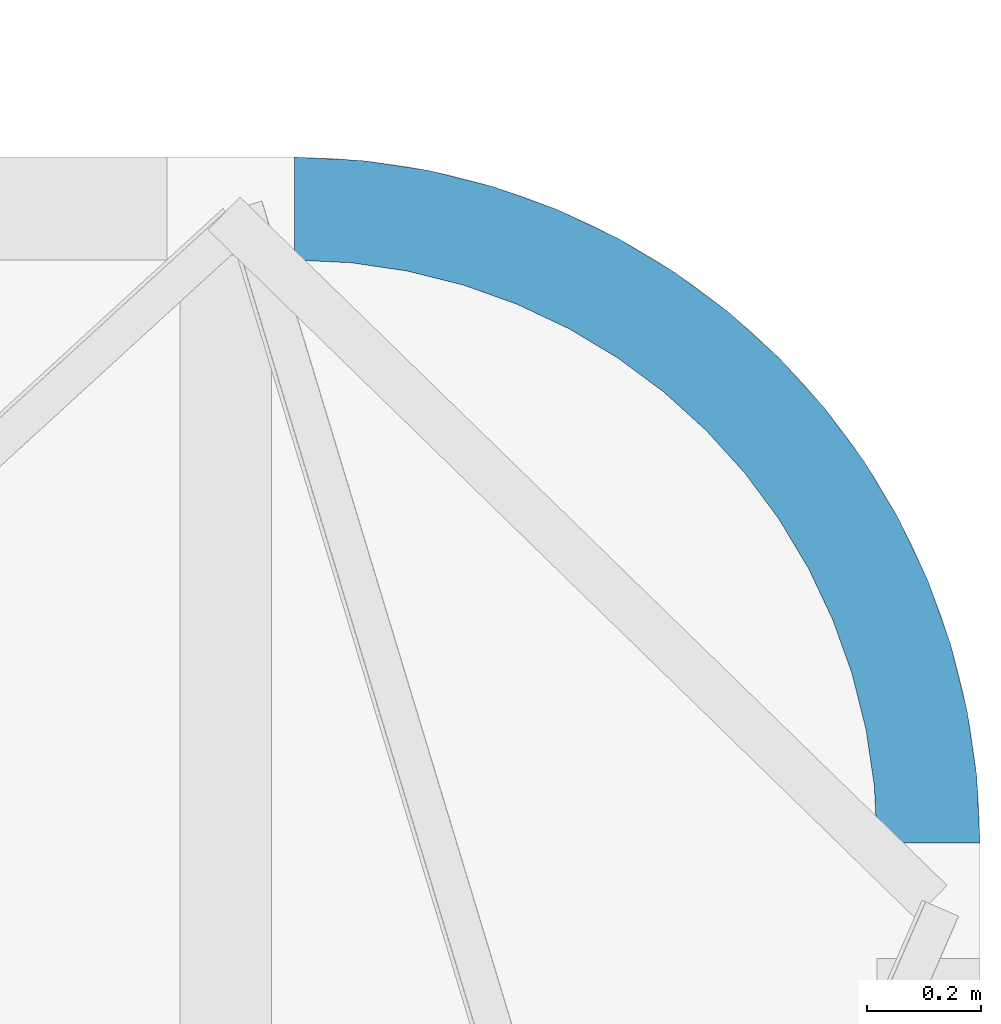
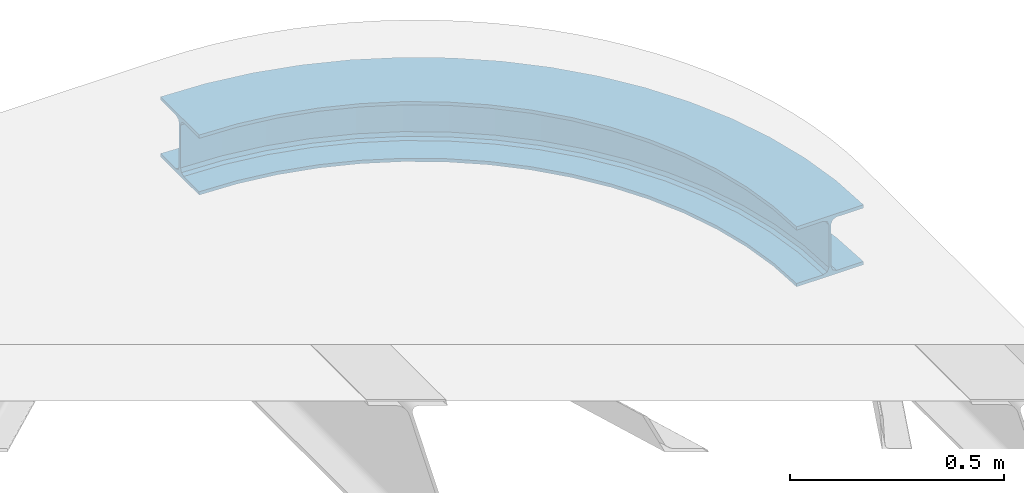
# One storey, part 14 of 14: 1 beam.
"""IFC2X3 building model written with IfcOpenShell, lengths in millimetres."""

from ifc_helpers import new_model, entity, si_unit, converted_unit, derived_unit, direction, frame, origin, place, context, subcontext, project, spatial, faceted_brep, material, type_object, element, save


model = new_model("IFC2X3")

# Units and contexts
model_context = context("Model", 3, precision=0.01, world=origin(), true_north=direction((6.123031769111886e-17, 1.0)))
body_context = subcontext(model_context, "Body", "Model", "MODEL_VIEW")
ifc_project = project(units=[si_unit("LENGTHUNIT", "METRE", prefix="MILLI"), si_unit("AREAUNIT", "SQUARE_METRE"), si_unit("VOLUMEUNIT", "CUBIC_METRE"), derived_unit("MASSDENSITYUNIT", [(si_unit("MASSUNIT", "GRAM", prefix="KILO"), 1), (si_unit("LENGTHUNIT", "METRE"), -3)]), si_unit("MASSUNIT", "GRAM", prefix="KILO"), converted_unit("PLANEANGLEUNIT", "DEGREE", entity("IfcPlaneAngleMeasure", 0.017453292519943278), si_unit("PLANEANGLEUNIT", "RADIAN"), dimensions=[0, 0, 0, 0, 0, 0, 0])], contexts=[model_context])

# Site, building, storey
site_placement = place(None, origin())
site = spatial("IfcSite", under=ifc_project, at=site_placement, Name="Default", CompositionType="ELEMENT")
building_placement = place(site_placement, origin())
building = spatial("IfcBuilding", under=site, at=building_placement, Name="AT constructie", CompositionType="ELEMENT")
storey_placement = place(building_placement, frame((0.0, 0.0, 12043.0)))
storey = spatial("IfcBuildingStorey", under=building, at=storey_placement, Name="03 derde verdieping", CompositionType="ELEMENT", Elevation=12043.0)

# Beam
ifc_material = material(Name="h2_staal_S355")
beam_type = type_object("IfcBeamType", Name="balk HE_gen_HEA180", PredefinedType="NOTDEFINED")
beam_placement = place(storey_placement, frame((99466.87463111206, 30191.04350852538, 0.0), z_axis=(0.0, 0.0, -1.0), x_axis=(1.0, 0.0, 0.0)))
element("IfcBeam", 1, at=beam_placement, inside=storey, type_object=beam_type, material=ifc_material, Name="NLRS_28_SF_LIB_balk HEA_gen_AT:balk HE_gen_HEA180", ObjectType="NLRS_28_SF_LIB_balk HEA_gen_AT:balk HE_gen_HEA180", context=body_context, shape_type="Brep", body=[
    faceted_brep([(1194.2216720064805, -117.62056839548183, 0.0), (1015.0884212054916, -99.97748313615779, 0.0), (1020.0, 0.0, 0.0), (1200.0, 0.0, 0.0), (1015.0884212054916, -99.97748313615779, 9.500000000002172), (1020.0, 0.0, 9.500000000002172), (1086.7417215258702, -107.0347172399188, 9.500000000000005), (1092.0, 0.0, 9.500000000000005), (1097.2972495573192, -108.07434600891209, 13.893398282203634), (1102.6066017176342, 0.0, 13.893398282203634), (1101.6694924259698, -108.50497434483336, 24.500000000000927), (1107.0, 0.0, 24.500000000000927), (1101.6694924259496, -108.50497434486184, 146.50000000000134), (1107.0, 0.0, 146.50000000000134), (1097.2972495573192, -108.07434600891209, 157.10660171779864), (1102.6066017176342, 0.0, 157.10660171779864), (1086.7417215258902, -107.03471723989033, 161.50000000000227), (1092.0, 0.0, 161.50000000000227), (1015.0884212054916, -99.97748313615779, 161.50000000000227), (1020.0, 0.0, 161.50000000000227), (1015.0884212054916, -99.97748313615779, 171.0), (1020.0, 0.0, 171.0), (1194.2216720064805, -117.62056839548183, 171.0), (1200.0, 0.0, 171.0), (1194.2216720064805, -117.62056839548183, 161.50000000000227), (1200.0, 0.0, 161.50000000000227), (1122.568371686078, -110.56333429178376, 161.50000000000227), (1128.0, 0.0, 161.50000000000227), (1112.0128436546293, -109.52370552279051, 157.10660171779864), (1117.3933982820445, 0.0, 157.10660171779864), (1107.6406007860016, -109.09307718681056, 146.50000000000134), (1113.0, 0.0, 146.50000000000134), (1107.6406007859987, -109.09307718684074, 24.500000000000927), (1113.0, 0.0, 24.500000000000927), (1112.0128436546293, -109.52370552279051, 13.893398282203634), (1117.3933982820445, 0.0, 13.893398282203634), (1122.5683716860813, -110.56333429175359, 9.500000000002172), (1128.0, 0.0, 9.500000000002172), (1194.2216720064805, -117.62056839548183, 9.500000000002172), (1200.0, 0.0, 9.500000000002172), (1176.9423364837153, -234.1083864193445, 0.0), (1000.4009860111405, -198.99212845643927, 0.0), (1000.4009860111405, -198.99212845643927, 9.500000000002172), (1071.0175262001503, -213.03863164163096, 9.500000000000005), (1081.4203250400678, -215.10787698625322, 13.893398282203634), (1085.7293054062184, -215.96498647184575, 24.500000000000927), (1085.7293054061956, -215.96498647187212, 146.50000000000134), (1081.4203250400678, -215.10787698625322, 157.10660171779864), (1071.017526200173, -213.03863164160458, 161.50000000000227), (1000.4009860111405, -198.99212845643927, 161.50000000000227), (1000.4009860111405, -198.99212845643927, 171.0), (1176.9423364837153, -234.1083864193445, 171.0), (1176.9423364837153, -234.1083864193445, 161.50000000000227), (1106.3257962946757, -220.06188323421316, 161.50000000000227), (1095.9229974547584, -217.99263788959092, 157.10660171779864), (1091.6140170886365, -217.13552840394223, 146.50000000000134), (1091.6140170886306, -217.13552840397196, 24.500000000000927), (1095.9229974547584, -217.99263788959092, 13.893398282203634), (1106.3257962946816, -220.06188323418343, 9.500000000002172), (1176.9423364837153, -234.1083864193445, 9.500000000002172), (1148.3284028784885, -348.3416127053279, 0.0), (976.0791424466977, -296.09037079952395, 0.0), (976.0791424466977, -296.09037079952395, 9.500000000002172), (1044.978846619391, -316.990867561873, 9.500000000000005), (1055.1287316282, -320.06980151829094, 13.893398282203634), (1059.3329516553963, -321.34513772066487, 24.500000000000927), (1059.332951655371, -321.34513772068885, 146.50000000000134), (1055.1287316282, -320.06980151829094, 157.10660171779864), (1044.9788466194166, -316.990867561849, 161.50000000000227), (976.0791424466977, -296.09037079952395, 161.50000000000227), (976.0791424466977, -296.09037079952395, 171.0), (1148.3284028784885, -348.3416127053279, 171.0), (1148.3284028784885, -348.3416127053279, 161.50000000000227), (1079.4286987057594, -327.441115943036, 161.50000000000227), (1069.278813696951, -324.3621819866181, 157.10660171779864), (1065.0745936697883, -323.08684578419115, 146.50000000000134), (1065.0745936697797, -323.08684578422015, 24.500000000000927), (1069.278813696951, -324.3621819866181, 13.893398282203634), (1079.4286987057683, -327.441115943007, 9.500000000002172), (1148.3284028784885, -348.3416127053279, 9.500000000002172), (1108.6554390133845, -459.22011883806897, 0.0), (942.3571231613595, -390.3371010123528, 0.0), (942.3571231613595, -390.3371010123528, 9.500000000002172), (1008.8764495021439, -417.8903081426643, 9.500000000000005), (1018.675671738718, -421.94927889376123, 13.893398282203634), (1022.7346424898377, -423.63055962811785, 24.500000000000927), (1022.7346424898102, -423.6305596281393, 146.50000000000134), (1018.675671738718, -421.94927889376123, 157.10660171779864), (1008.8764495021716, -417.89030814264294, 161.50000000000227), (942.3571231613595, -390.3371010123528, 161.50000000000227), (942.3571231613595, -390.3371010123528, 171.0), (1108.6554390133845, -459.22011883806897, 171.0), (1108.6554390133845, -459.22011883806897, 161.50000000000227), (1042.1361126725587, -431.66691170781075, 161.50000000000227), (1032.336890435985, -427.6079409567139, 157.10660171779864), (1028.2779196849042, -425.9266602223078, 146.50000000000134), (1028.2779196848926, -425.92666022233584, 24.500000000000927), (1032.336890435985, -427.6079409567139, 13.893398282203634), (1042.1361126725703, -431.66691170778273, 9.500000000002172), (1108.6554390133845, -459.22011883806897, 9.500000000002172), (1058.305517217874, -565.676084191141, 0.0), (899.5596896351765, -480.8246715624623, 0.0), (899.5596896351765, -480.8246715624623, 9.500000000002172), (963.0580206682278, -514.7652366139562, 9.500000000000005), (972.412208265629, -519.7651540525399, 13.893398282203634), (976.2868396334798, -521.8361876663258, 24.500000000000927), (976.2868396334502, -521.8361876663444, 146.50000000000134), (972.412208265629, -519.7651540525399, 157.10660171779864), (963.0580206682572, -514.7652366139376, 161.50000000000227), (899.5596896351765, -480.8246715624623, 161.50000000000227), (899.5596896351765, -480.8246715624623, 171.0), (1058.305517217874, -565.676084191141, 171.0), (1058.305517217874, -565.676084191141, 161.50000000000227), (994.8071861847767, -531.7355191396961, 161.50000000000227), (985.4529985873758, -526.7356017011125, 157.10660171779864), (981.5783672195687, -524.664568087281, 146.50000000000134), (981.5783672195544, -524.6645680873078, 24.500000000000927), (985.4529985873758, -526.7356017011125, 13.893398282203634), (994.807186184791, -531.7355191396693, 9.500000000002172), (1058.305517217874, -565.676084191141, 9.500000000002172), (997.7635347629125, -666.6842796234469, 0.0), (848.0990045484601, -566.6816376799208, 0.0), (848.0990045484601, -566.6816376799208, 9.500000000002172), (907.9648166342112, -606.6826944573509, 9.500000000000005), (916.7838836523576, -612.5754066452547, 13.893398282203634), (920.436860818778, -615.0162479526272, 24.500000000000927), (920.4368608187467, -615.0162479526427, 146.50000000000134), (916.7838836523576, -612.5754066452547, 157.10660171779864), (907.9648166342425, -606.6826944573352, 161.50000000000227), (848.0990045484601, -566.6816376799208, 161.50000000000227), (848.0990045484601, -566.6816376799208, 171.0), (997.7635347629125, -666.6842796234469, 171.0), (997.7635347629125, -666.6842796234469, 161.50000000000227), (937.8977226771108, -626.6832228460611, 161.50000000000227), (929.0786556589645, -620.7905106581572, 157.10660171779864), (925.4256784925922, -618.3496693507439, 146.50000000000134), (925.4256784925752, -618.3496693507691, 24.500000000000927), (929.0786556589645, -620.7905106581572, 13.893398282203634), (937.8977226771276, -626.6832228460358, 9.500000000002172), (997.7635347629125, -666.6842796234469, 9.500000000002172), (927.6125440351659, -761.2719409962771, 0.0), (788.470662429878, -647.0811498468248, 0.0), (788.470662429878, -647.0811498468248, 9.500000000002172), (844.1274150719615, -692.7574663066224, 9.500000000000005), (852.3264290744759, -699.4862232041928, 13.893398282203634), (855.7225718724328, -702.2733655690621, 24.500000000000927), (855.7225718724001, -702.2733655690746, 146.50000000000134), (852.3264290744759, -699.4862232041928, 157.10660171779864), (844.127415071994, -692.7574663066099, 161.50000000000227), (788.470662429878, -647.0811498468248, 161.50000000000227), (788.470662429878, -647.0811498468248, 171.0), (927.6125440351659, -761.2719409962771, 171.0), (927.6125440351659, -761.2719409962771, 161.50000000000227), (871.9557913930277, -715.5956245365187, 161.50000000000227), (863.7567773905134, -708.8668676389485, 157.10660171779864), (860.3606345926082, -706.079725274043, 146.50000000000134), (860.360634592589, -706.0797252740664, 24.500000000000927), (863.7567773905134, -708.8668676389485, 13.893398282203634), (871.9557913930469, -715.5956245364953, 9.500000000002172), (927.6125440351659, -761.2719409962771, 9.500000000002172), (848.5281374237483, -848.5281374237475, 0.0), (721.2489168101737, -721.2489168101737, 0.0), (721.2489168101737, -721.2489168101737, 9.500000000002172), (772.1606050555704, -772.1606050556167, 9.500000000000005), (779.6606050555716, -779.6606050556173, 13.893398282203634), (782.7672067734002, -782.7672067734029, 24.500000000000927), (782.7672067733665, -782.7672067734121, 146.50000000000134), (779.6606050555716, -779.6606050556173, 157.10660171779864), (772.160605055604, -772.1606050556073, 161.50000000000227), (721.2489168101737, -721.2489168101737, 161.50000000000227), (721.2489168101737, -721.2489168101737, 171.0), (848.5281374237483, -848.5281374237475, 171.0), (848.5281374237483, -848.5281374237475, 161.50000000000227), (797.6164491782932, -797.616449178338, 161.50000000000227), (790.1164491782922, -790.1164491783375, 157.10660171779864), (787.0098474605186, -787.0098474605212, 146.50000000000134), (787.0098474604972, -787.0098474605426, 24.500000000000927), (790.1164491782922, -790.1164491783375, 13.893398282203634), (797.6164491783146, -797.6164491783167, 9.500000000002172), (848.5281374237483, -848.5281374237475, 9.500000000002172), (761.2719409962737, -927.6125440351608, 0.0), (647.081149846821, -788.4706624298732, 0.0), (647.081149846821, -788.4706624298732, 9.500000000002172), (692.7574663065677, -844.1274150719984, 9.500000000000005), (699.4862232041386, -852.3264290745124, 13.893398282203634), (702.2733655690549, -855.7225718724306, 24.500000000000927), (702.2733655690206, -855.7225718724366, 146.50000000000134), (699.4862232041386, -852.3264290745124, 157.10660171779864), (692.7574663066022, -844.1274150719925, 161.50000000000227), (647.081149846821, -788.4706624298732, 161.50000000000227), (647.081149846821, -788.4706624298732, 171.0), (761.2719409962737, -927.6125440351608, 171.0), (761.2719409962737, -927.6125440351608, 161.50000000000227), (715.5956245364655, -871.9557913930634, 161.50000000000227), (708.8668676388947, -863.7567773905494, 157.10660171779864), (706.0797252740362, -860.360634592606, 146.50000000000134), (706.0797252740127, -860.3606345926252, 24.500000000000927), (708.8668676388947, -863.7567773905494, 13.893398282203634), (715.5956245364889, -871.9557913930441, 9.500000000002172), (761.2719409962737, -927.6125440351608, 9.500000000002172), (666.6842796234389, -997.7635347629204, 0.0), (566.681637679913, -848.0990045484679, 0.0), (566.681637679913, -848.0990045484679, 9.500000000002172), (606.6826944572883, -907.9648166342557, 9.500000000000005), (612.5754066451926, -916.7838836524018, 13.893398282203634), (615.0162479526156, -920.4368608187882, 24.500000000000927), (615.0162479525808, -920.4368608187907, 146.50000000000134), (612.5754066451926, -916.7838836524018, 157.10660171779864), (606.6826944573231, -907.9648166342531, 161.50000000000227), (566.681637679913, -848.0990045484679, 161.50000000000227), (566.681637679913, -848.0990045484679, 171.0), (666.6842796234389, -997.7635347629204, 171.0), (666.6842796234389, -997.7635347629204, 161.50000000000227), (626.6832228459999, -937.8977226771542, 161.50000000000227), (620.7905106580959, -929.0786556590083, 157.10660171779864), (618.3496693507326, -925.4256784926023, 146.50000000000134), (618.3496693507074, -925.4256784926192, 24.500000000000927), (620.7905106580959, -929.0786556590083, 13.893398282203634), (626.6832228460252, -937.8977226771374, 9.500000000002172), (666.6842796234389, -997.7635347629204, 9.500000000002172), (565.6760841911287, -1058.3055172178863, 0.0), (480.82467156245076, -899.5596896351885, 0.0), (480.82467156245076, -899.5596896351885, 9.500000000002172), (514.7652366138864, -963.0580206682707, 9.500000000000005), (519.7651540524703, -972.4122082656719, 13.893398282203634), (521.83618766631, -976.2868396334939, 24.500000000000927), (521.8361876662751, -976.286839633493, 146.50000000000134), (519.7651540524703, -972.4122082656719, 157.10660171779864), (514.7652366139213, -963.0580206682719, 161.50000000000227), (480.82467156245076, -899.5596896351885, 161.50000000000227), (480.82467156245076, -899.5596896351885, 171.0), (565.6760841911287, -1058.3055172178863, 171.0), (565.6760841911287, -1058.3055172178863, 161.50000000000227), (531.7355191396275, -994.8071861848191, 161.50000000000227), (526.7356017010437, -985.4529985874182, 157.10660171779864), (524.6645680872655, -981.5783672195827, 146.50000000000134), (524.6645680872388, -981.578367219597, 24.500000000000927), (526.7356017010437, -985.4529985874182, 13.893398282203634), (531.7355191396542, -994.8071861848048, 9.500000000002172), (565.6760841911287, -1058.3055172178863, 9.500000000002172), (459.2201188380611, -1108.6554390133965, 0.0), (390.33710101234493, -942.3571231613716, 0.0), (390.33710101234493, -942.3571231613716, 9.500000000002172), (417.8903081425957, -1008.8764495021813, 9.500000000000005), (421.949278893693, -1018.6756717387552, 13.893398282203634), (423.63055962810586, -1022.7346424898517, 24.500000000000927), (423.63055962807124, -1022.7346424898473, 146.50000000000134), (421.949278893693, -1018.6756717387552, 157.10660171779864), (417.89030814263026, -1008.8764495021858, 161.50000000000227), (390.33710101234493, -942.3571231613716, 161.50000000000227), (390.33710101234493, -942.3571231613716, 171.0), (459.2201188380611, -1108.6554390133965, 171.0), (459.2201188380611, -1108.6554390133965, 161.50000000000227), (431.6669117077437, -1042.1361126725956, 161.50000000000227), (427.6079409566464, -1032.3368904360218, 157.10660171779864), (425.9266602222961, -1028.277919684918, 146.50000000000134), (425.9266602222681, -1028.2779196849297, 24.500000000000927), (427.6079409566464, -1032.3368904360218, 13.893398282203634), (431.6669117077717, -1042.136112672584, 9.500000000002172), (459.2201188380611, -1108.6554390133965, 9.500000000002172), (348.3416127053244, -1148.3284028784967, 0.0), (296.09037079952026, -976.0791424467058, 0.0), (296.09037079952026, -976.0791424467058, 9.500000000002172), (316.9908675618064, -1044.9788466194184, 9.500000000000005), (320.0698015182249, -1055.1287316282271, 13.893398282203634), (321.3451377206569, -1059.3329516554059, 24.500000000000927), (321.3451377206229, -1059.3329516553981, 146.50000000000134), (320.0698015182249, -1055.1287316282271, 157.10660171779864), (316.99086756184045, -1044.978846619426, 161.50000000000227), (296.09037079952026, -976.0791424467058, 161.50000000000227), (296.09037079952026, -976.0791424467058, 171.0), (348.3416127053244, -1148.3284028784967, 171.0), (348.3416127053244, -1148.3284028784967, 161.50000000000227), (327.441115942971, -1079.428698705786, 161.50000000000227), (324.36218198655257, -1069.2788136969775, 157.10660171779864), (323.0868457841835, -1065.0745936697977, 146.50000000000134), (323.0868457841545, -1065.0745936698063, 24.500000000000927), (324.36218198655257, -1069.2788136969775, 13.893398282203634), (327.441115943, -1079.4286987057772, 9.500000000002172), (348.3416127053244, -1148.3284028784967, 9.500000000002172), (234.10838641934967, -1176.9423364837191, 0.0), (198.9921284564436, -1000.4009860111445, 0.0), (198.9921284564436, -1000.4009860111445, 9.500000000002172), (213.03863164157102, -1071.0175262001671, 9.500000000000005), (215.10787698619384, -1081.4203250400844, 13.893398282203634), (215.9649864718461, -1085.7293054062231, 24.500000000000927), (215.96498647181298, -1085.729305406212, 146.50000000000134), (215.10787698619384, -1081.4203250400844, 157.10660171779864), (213.03863164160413, -1071.0175262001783, 161.50000000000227), (198.9921284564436, -1000.4009860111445, 161.50000000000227), (198.9921284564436, -1000.4009860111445, 171.0), (234.10838641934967, -1176.9423364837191, 171.0), (234.10838641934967, -1176.9423364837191, 161.50000000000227), (220.0618832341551, -1106.325796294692, 161.50000000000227), (217.99263788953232, -1095.9229974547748, 157.10660171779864), (217.13552840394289, -1091.614017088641, 146.50000000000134), (217.13552840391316, -1091.614017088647, 24.500000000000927), (217.99263788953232, -1095.9229974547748, 13.893398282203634), (220.06188323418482, -1106.3257962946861, 9.500000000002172), (234.10838641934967, -1176.9423364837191, 9.500000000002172), (117.62056839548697, -1194.22167200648, 0.0), (99.97748313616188, -1015.0884212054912, 0.0), (99.97748313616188, -1015.0884212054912, 9.500000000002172), (107.03471723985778, -1086.741721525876, 9.500000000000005), (108.07434600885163, -1097.2972495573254, 13.893398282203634), (108.50497434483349, -1101.6694924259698, 24.500000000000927), (108.50497434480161, -1101.6694924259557, 146.50000000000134), (108.07434600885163, -1097.2972495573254, 157.10660171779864), (107.03471723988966, -1086.7417215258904, 161.50000000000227), (99.97748313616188, -1015.0884212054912, 161.50000000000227), (99.97748313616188, -1015.0884212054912, 171.0), (117.62056839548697, -1194.22167200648, 171.0), (117.62056839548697, -1194.22167200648, 161.50000000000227), (110.56333429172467, -1122.5683716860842, 161.50000000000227), (109.52370552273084, -1112.0128436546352, 157.10660171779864), (109.09307718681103, -1107.6406007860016, 146.50000000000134), (109.09307718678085, -1107.6406007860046, 24.500000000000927), (109.52370552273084, -1112.0128436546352, 13.893398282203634), (110.56333429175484, -1122.568371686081, 9.500000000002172), (117.62056839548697, -1194.22167200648, 9.500000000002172), (0.0, -1200.0, 0.0), (0.0, -1020.0, 0.0), (0.0, -1020.0, 9.500000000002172), (0.0, -1092.0, 9.500000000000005), (0.0, -1102.6066017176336, 13.893398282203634), (0.0, -1107.0, 24.500000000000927), (0.0, -1107.0, 146.50000000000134), (0.0, -1102.6066017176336, 157.10660171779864), (0.0, -1092.0, 161.50000000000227), (0.0, -1020.0, 161.50000000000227), (0.0, -1020.0, 171.0), (0.0, -1200.0, 171.0), (0.0, -1200.0, 161.50000000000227), (0.0, -1128.0, 161.50000000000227), (0.0, -1117.3933982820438, 157.10660171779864), (0.0, -1113.0, 146.50000000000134), (0.0, -1113.0, 24.500000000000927), (0.0, -1117.3933982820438, 13.893398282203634), (0.0, -1128.0, 9.500000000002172), (0.0, -1200.0, 9.500000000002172)], [[[0, 1, 2, 3]], [[1, 4, 5, 2]], [[4, 6, 7, 5]], [[6, 8, 9, 7]], [[8, 10, 11, 9]], [[10, 12, 13, 11]], [[12, 14, 15, 13]], [[14, 16, 17, 15]], [[16, 18, 19, 17]], [[18, 20, 21, 19]], [[20, 22, 23, 21]], [[22, 24, 25, 23]], [[24, 26, 27, 25]], [[26, 28, 29, 27]], [[28, 30, 31, 29]], [[30, 32, 33, 31]], [[32, 34, 35, 33]], [[34, 36, 37, 35]], [[36, 38, 39, 37]], [[38, 0, 3, 39]], [[40, 41, 1, 0]], [[41, 42, 4, 1]], [[42, 43, 6, 4]], [[43, 44, 8, 6]], [[44, 45, 10, 8]], [[45, 46, 12, 10]], [[46, 47, 14, 12]], [[47, 48, 16, 14]], [[48, 49, 18, 16]], [[49, 50, 20, 18]], [[50, 51, 22, 20]], [[51, 52, 24, 22]], [[52, 53, 26, 24]], [[53, 54, 28, 26]], [[54, 55, 30, 28]], [[55, 56, 32, 30]], [[56, 57, 34, 32]], [[57, 58, 36, 34]], [[58, 59, 38, 36]], [[59, 40, 0, 38]], [[60, 61, 41, 40]], [[61, 62, 42, 41]], [[62, 63, 43, 42]], [[63, 64, 44, 43]], [[64, 65, 45, 44]], [[65, 66, 46, 45]], [[66, 67, 47, 46]], [[67, 68, 48, 47]], [[68, 69, 49, 48]], [[69, 70, 50, 49]], [[70, 71, 51, 50]], [[71, 72, 52, 51]], [[72, 73, 53, 52]], [[73, 74, 54, 53]], [[74, 75, 55, 54]], [[75, 76, 56, 55]], [[76, 77, 57, 56]], [[77, 78, 58, 57]], [[78, 79, 59, 58]], [[79, 60, 40, 59]], [[80, 81, 61, 60]], [[81, 82, 62, 61]], [[82, 83, 63, 62]], [[83, 84, 64, 63]], [[84, 85, 65, 64]], [[85, 86, 66, 65]], [[86, 87, 67, 66]], [[87, 88, 68, 67]], [[88, 89, 69, 68]], [[89, 90, 70, 69]], [[90, 91, 71, 70]], [[91, 92, 72, 71]], [[92, 93, 73, 72]], [[93, 94, 74, 73]], [[94, 95, 75, 74]], [[95, 96, 76, 75]], [[96, 97, 77, 76]], [[97, 98, 78, 77]], [[98, 99, 79, 78]], [[99, 80, 60, 79]], [[100, 101, 81, 80]], [[101, 102, 82, 81]], [[102, 103, 83, 82]], [[103, 104, 84, 83]], [[104, 105, 85, 84]], [[105, 106, 86, 85]], [[106, 107, 87, 86]], [[107, 108, 88, 87]], [[108, 109, 89, 88]], [[109, 110, 90, 89]], [[110, 111, 91, 90]], [[111, 112, 92, 91]], [[112, 113, 93, 92]], [[113, 114, 94, 93]], [[114, 115, 95, 94]], [[115, 116, 96, 95]], [[116, 117, 97, 96]], [[117, 118, 98, 97]], [[118, 119, 99, 98]], [[119, 100, 80, 99]], [[120, 121, 101, 100]], [[121, 122, 102, 101]], [[122, 123, 103, 102]], [[123, 124, 104, 103]], [[124, 125, 105, 104]], [[125, 126, 106, 105]], [[126, 127, 107, 106]], [[127, 128, 108, 107]], [[128, 129, 109, 108]], [[129, 130, 110, 109]], [[130, 131, 111, 110]], [[131, 132, 112, 111]], [[132, 133, 113, 112]], [[133, 134, 114, 113]], [[134, 135, 115, 114]], [[135, 136, 116, 115]], [[136, 137, 117, 116]], [[137, 138, 118, 117]], [[138, 139, 119, 118]], [[139, 120, 100, 119]], [[140, 141, 121, 120]], [[141, 142, 122, 121]], [[142, 143, 123, 122]], [[143, 144, 124, 123]], [[144, 145, 125, 124]], [[145, 146, 126, 125]], [[146, 147, 127, 126]], [[147, 148, 128, 127]], [[148, 149, 129, 128]], [[149, 150, 130, 129]], [[150, 151, 131, 130]], [[151, 152, 132, 131]], [[152, 153, 133, 132]], [[153, 154, 134, 133]], [[154, 155, 135, 134]], [[155, 156, 136, 135]], [[156, 157, 137, 136]], [[157, 158, 138, 137]], [[158, 159, 139, 138]], [[159, 140, 120, 139]], [[160, 161, 141, 140]], [[161, 162, 142, 141]], [[162, 163, 143, 142]], [[163, 164, 144, 143]], [[164, 165, 145, 144]], [[165, 166, 146, 145]], [[166, 167, 147, 146]], [[167, 168, 148, 147]], [[168, 169, 149, 148]], [[169, 170, 150, 149]], [[170, 171, 151, 150]], [[171, 172, 152, 151]], [[172, 173, 153, 152]], [[173, 174, 154, 153]], [[174, 175, 155, 154]], [[175, 176, 156, 155]], [[176, 177, 157, 156]], [[177, 178, 158, 157]], [[178, 179, 159, 158]], [[179, 160, 140, 159]], [[180, 181, 161, 160]], [[181, 182, 162, 161]], [[182, 183, 163, 162]], [[183, 184, 164, 163]], [[184, 185, 165, 164]], [[185, 186, 166, 165]], [[186, 187, 167, 166]], [[187, 188, 168, 167]], [[188, 189, 169, 168]], [[189, 190, 170, 169]], [[190, 191, 171, 170]], [[191, 192, 172, 171]], [[192, 193, 173, 172]], [[193, 194, 174, 173]], [[194, 195, 175, 174]], [[195, 196, 176, 175]], [[196, 197, 177, 176]], [[197, 198, 178, 177]], [[198, 199, 179, 178]], [[199, 180, 160, 179]], [[200, 201, 181, 180]], [[201, 202, 182, 181]], [[202, 203, 183, 182]], [[203, 204, 184, 183]], [[204, 205, 185, 184]], [[205, 206, 186, 185]], [[206, 207, 187, 186]], [[207, 208, 188, 187]], [[208, 209, 189, 188]], [[209, 210, 190, 189]], [[210, 211, 191, 190]], [[211, 212, 192, 191]], [[212, 213, 193, 192]], [[213, 214, 194, 193]], [[214, 215, 195, 194]], [[215, 216, 196, 195]], [[216, 217, 197, 196]], [[217, 218, 198, 197]], [[218, 219, 199, 198]], [[219, 200, 180, 199]], [[220, 221, 201, 200]], [[221, 222, 202, 201]], [[222, 223, 203, 202]], [[223, 224, 204, 203]], [[224, 225, 205, 204]], [[225, 226, 206, 205]], [[226, 227, 207, 206]], [[227, 228, 208, 207]], [[228, 229, 209, 208]], [[229, 230, 210, 209]], [[230, 231, 211, 210]], [[231, 232, 212, 211]], [[232, 233, 213, 212]], [[233, 234, 214, 213]], [[234, 235, 215, 214]], [[235, 236, 216, 215]], [[236, 237, 217, 216]], [[237, 238, 218, 217]], [[238, 239, 219, 218]], [[239, 220, 200, 219]], [[240, 241, 221, 220]], [[241, 242, 222, 221]], [[242, 243, 223, 222]], [[243, 244, 224, 223]], [[244, 245, 225, 224]], [[245, 246, 226, 225]], [[246, 247, 227, 226]], [[247, 248, 228, 227]], [[248, 249, 229, 228]], [[249, 250, 230, 229]], [[250, 251, 231, 230]], [[251, 252, 232, 231]], [[252, 253, 233, 232]], [[253, 254, 234, 233]], [[254, 255, 235, 234]], [[255, 256, 236, 235]], [[256, 257, 237, 236]], [[257, 258, 238, 237]], [[258, 259, 239, 238]], [[259, 240, 220, 239]], [[260, 261, 241, 240]], [[261, 262, 242, 241]], [[262, 263, 243, 242]], [[263, 264, 244, 243]], [[264, 265, 245, 244]], [[265, 266, 246, 245]], [[266, 267, 247, 246]], [[267, 268, 248, 247]], [[268, 269, 249, 248]], [[269, 270, 250, 249]], [[270, 271, 251, 250]], [[271, 272, 252, 251]], [[272, 273, 253, 252]], [[273, 274, 254, 253]], [[274, 275, 255, 254]], [[275, 276, 256, 255]], [[276, 277, 257, 256]], [[277, 278, 258, 257]], [[278, 279, 259, 258]], [[279, 260, 240, 259]], [[280, 281, 261, 260]], [[281, 282, 262, 261]], [[282, 283, 263, 262]], [[283, 284, 264, 263]], [[284, 285, 265, 264]], [[285, 286, 266, 265]], [[286, 287, 267, 266]], [[287, 288, 268, 267]], [[288, 289, 269, 268]], [[289, 290, 270, 269]], [[290, 291, 271, 270]], [[291, 292, 272, 271]], [[292, 293, 273, 272]], [[293, 294, 274, 273]], [[294, 295, 275, 274]], [[295, 296, 276, 275]], [[296, 297, 277, 276]], [[297, 298, 278, 277]], [[298, 299, 279, 278]], [[299, 280, 260, 279]], [[300, 301, 281, 280]], [[301, 302, 282, 281]], [[302, 303, 283, 282]], [[303, 304, 284, 283]], [[304, 305, 285, 284]], [[305, 306, 286, 285]], [[306, 307, 287, 286]], [[307, 308, 288, 287]], [[308, 309, 289, 288]], [[309, 310, 290, 289]], [[310, 311, 291, 290]], [[311, 312, 292, 291]], [[312, 313, 293, 292]], [[313, 314, 294, 293]], [[314, 315, 295, 294]], [[315, 316, 296, 295]], [[316, 317, 297, 296]], [[317, 318, 298, 297]], [[318, 319, 299, 298]], [[319, 300, 280, 299]], [[320, 321, 301, 300]], [[321, 322, 302, 301]], [[322, 323, 303, 302]], [[323, 324, 304, 303]], [[324, 325, 305, 304]], [[325, 326, 306, 305]], [[326, 327, 307, 306]], [[327, 328, 308, 307]], [[328, 329, 309, 308]], [[329, 330, 310, 309]], [[330, 331, 311, 310]], [[331, 332, 312, 311]], [[332, 333, 313, 312]], [[333, 334, 314, 313]], [[334, 335, 315, 314]], [[335, 336, 316, 315]], [[336, 337, 317, 316]], [[337, 338, 318, 317]], [[338, 339, 319, 318]], [[339, 320, 300, 319]], [[3, 2, 5, 7, 9, 11, 13, 15, 17, 19, 21, 23, 25, 27, 29, 31, 33, 35, 37, 39]], [[339, 338, 337, 336, 335, 334, 333, 332, 331, 330, 329, 328, 327, 326, 325, 324, 323, 322, 321, 320]]]),
])

save(model, "model.ifc")
